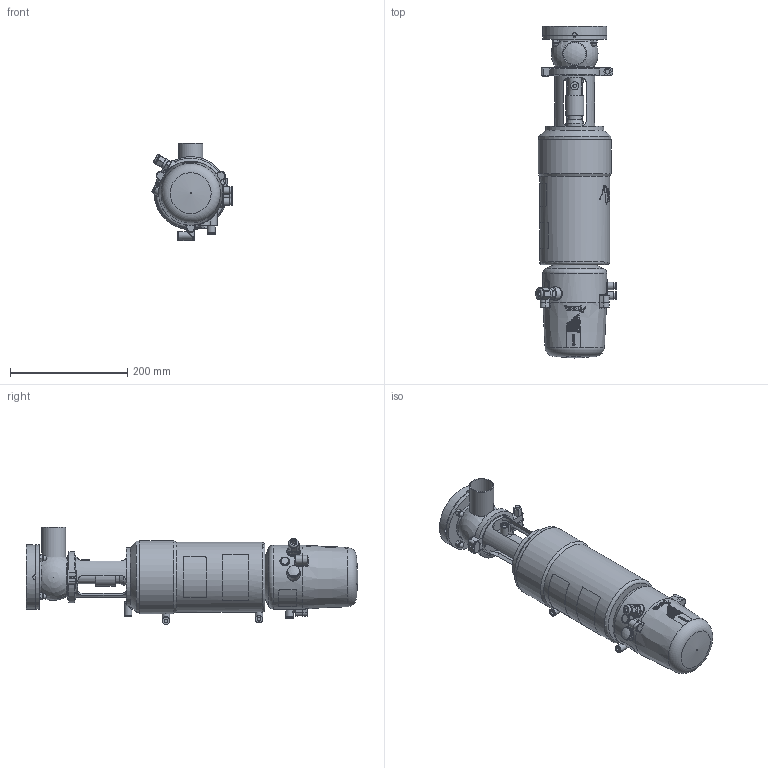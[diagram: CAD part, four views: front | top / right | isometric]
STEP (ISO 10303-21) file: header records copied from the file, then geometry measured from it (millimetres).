
FILE_DESCRIPTION (( 'STEP AP214' ), '1' );
FILE_NAME ('INNOVA T L W DIN 040 WITH FLANGE & C-TOP S_10.252.16.0007.STEP', '2024-08-20T12:53:05', ( '' ), ( '' ), 'SwSTEP 2.0', 'SolidWorks 2023', '' );
FILE_SCHEMA (( 'AUTOMOTIVE_DESIGN' ));
Length unit declared in the file: millimetre
Products named in the file (7): 10.240.15.0001_DN 040; 10.426.15.0001_C-TOP S - 3 EV; INNOVA T L W DIN 040 WITH FLANGE & C-TOP S_10.252.16.0007; 10.252.15.0001_DIN 040; 10.248.15.0003_DIN 040 _ OD 1½"; 10.250.15.0002_Type T T1; 10.240.15.0006_DIN 040
Assembly tree (6 placements, depth 2):
  INNOVA T L W DIN 040 WITH FLANGE & C-TOP S_10.252.16.0007
    10.240.15.0006_DIN 040
    10.248.15.0003_DIN 040 _ OD 1½"
    10.252.15.0001_DIN 040
    10.250.15.0002_Type T T1
    10.240.15.0001_DN 040
    10.426.15.0001_C-TOP S - 3 EV
Bounding box: 137.63 x 567.27 x 166 mm (x, y, z)
Volume: 4690136.9 mm3; surface area: 345321.3 mm2
Topology: 6 solids, 6 shells, 1198 faces, 2892 edges, 1923 vertices
Faces by surface type: plane 420, cylinder 376, cone 196, bspline 163, torus 33, sphere 10
Full cylindrical faces by diameter (mm): 0.371 x17, 0.512 x16, 0.658 x16, 0.795 x16, 0.94 x15, 1.098 x15, 1.241 x13, 1.382 x13, 1.523 x11, 1.669 x10, 2.201 x1, 4.2 x2, 5 x1, 5.5 x2, 6 x5, 6.15 x3, 8 x3, 9.5 x4, 10 x1, 10.5 x3, 11 x4, 12 x1, 12.5 x9, 13 x6, 13.5 x2, 14 x2, 17 x3, 20 x2, 22 x2, 23 x2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
Entity records: 60561 total; most frequent: CARTESIAN_POINT 28301, ORIENTED_EDGE 4888, DIRECTION 4011, EDGE_CURVE 2444, VERTEX_POINT 1737, EDGE_LOOP 1687, AXIS2_PLACEMENT_3D 1620, FACE_OUTER_BOUND 1428
